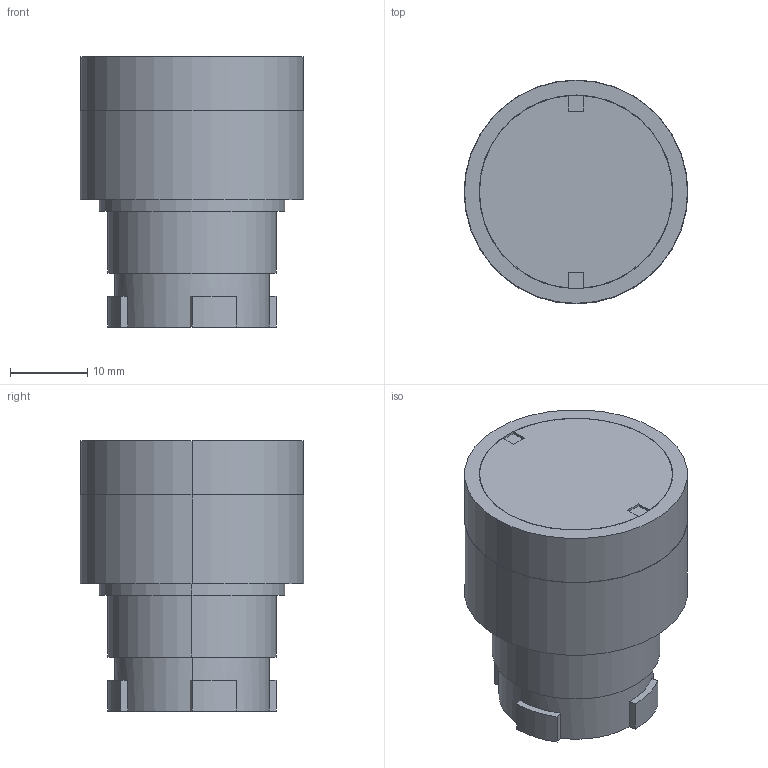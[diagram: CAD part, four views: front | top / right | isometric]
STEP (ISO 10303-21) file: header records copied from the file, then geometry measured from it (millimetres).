
FILE_DESCRIPTION (( 'STEP AP214' ), '1' );
FILE_NAME ('3D 斁麧錪 MTB2-BW33.STEP', '2017-05-19T07:28:39', ( 'adm' ), ( 'MICROSOFT' ), 'SwSTEP 2.0', 'SolidWorks 2011', '' );
FILE_SCHEMA (( 'AUTOMOTIVE_DESIGN' ));
Length unit declared in the file: millimetre
Products named in the file (1): 3D 斁麧錪 MTB2-BW33
Bounding box: 29 x 29 x 35 mm (x, y, z)
Volume: 12354.9 mm3; surface area: 11243.8 mm2
Topology: 1 solids, 2 shells, 85 faces, 212 edges, 141 vertices
Faces by surface type: plane 50, cylinder 30, cone 5
Entity records: 3227 total; most frequent: DIRECTION 469, CARTESIAN_POINT 463, ORIENTED_EDGE 424, EDGE_CURVE 212, AXIS2_PLACEMENT_3D 179, VERTEX_POINT 141, VECTOR 111, LINE 111
